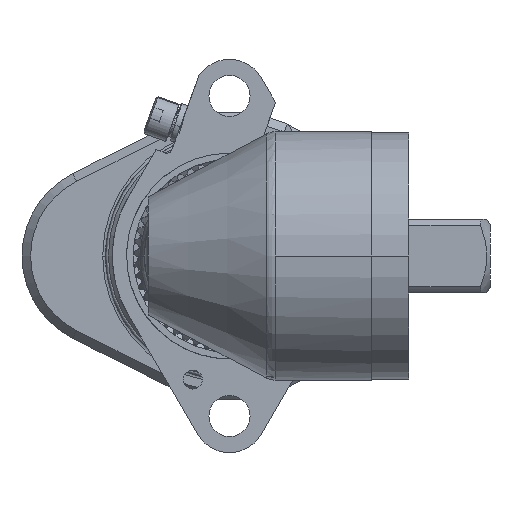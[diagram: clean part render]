
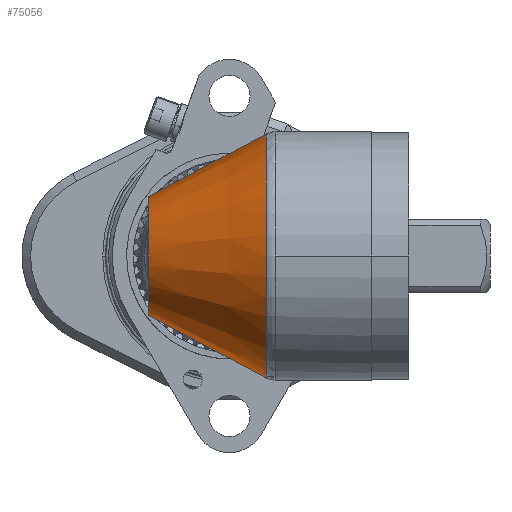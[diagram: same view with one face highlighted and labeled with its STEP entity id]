
A CAD part, left-side view. The second image highlights one B-rep face of the part: STEP entity #75056.
In plain terms, the highlighted conical face has half-angle 28 degrees and reference radius 15.74 mm.
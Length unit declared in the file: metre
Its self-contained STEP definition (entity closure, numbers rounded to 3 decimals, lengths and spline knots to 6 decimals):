
#33392=CARTESIAN_POINT('',(-0.358995,-0.006414,
0.016469));
#33426=CARTESIAN_POINT('',(-0.365325,0.001382,
0.01554));
#33567=CARTESIAN_POINT('',(-0.365325,0.001382,
0.01554));
#33568=CARTESIAN_POINT('',(-0.36563,0.001834,
0.015414));
#33569=CARTESIAN_POINT('',(-0.366176,0.002694,
0.015149));
#33570=CARTESIAN_POINT('',(-0.366803,0.003849,
0.014734));
#33571=CARTESIAN_POINT('',(-0.367255,0.00488,
0.014314));
#33572=CARTESIAN_POINT('',(-0.367554,0.005797,
0.013901));
#33573=CARTESIAN_POINT('',(-0.367732,0.00665,
0.013483));
#33574=CARTESIAN_POINT('',(-0.367808,0.007462,
0.013053));
#33575=CARTESIAN_POINT('',(-0.367793,0.008261,
0.012598));
#33576=CARTESIAN_POINT('',(-0.367691,0.009088,
0.012091));
#33577=CARTESIAN_POINT('',(-0.367496,0.009973,
0.011507));
#33578=CARTESIAN_POINT('',(-0.367202,0.010936,
0.010818));
#33579=CARTESIAN_POINT('',(-0.366814,0.011977,
0.010002));
#33580=CARTESIAN_POINT('',(-0.366364,0.013052,
0.009067));
#33581=CARTESIAN_POINT('',(-0.366055,0.013751,
0.008387));
#33582=CARTESIAN_POINT('',(-0.365901,0.014097,
0.008028));
#33584=CARTESIAN_POINT('',(-0.36285,-0.002224,
0.016424));
#33585=CARTESIAN_POINT('',(-0.362951,-0.002224,
0.016483));
#33586=CARTESIAN_POINT('',(-0.36316,-0.00221,
0.016592));
#33587=CARTESIAN_POINT('',(-0.363487,-0.002145,
0.016729));
#33588=CARTESIAN_POINT('',(-0.363816,-0.002036,
0.016834));
#33589=CARTESIAN_POINT('',(-0.364138,-0.001886,
0.016905));
#33590=CARTESIAN_POINT('',(-0.364446,-0.001698,
0.01694));
#33591=CARTESIAN_POINT('',(-0.364731,-0.001474,
0.01694));
#33592=CARTESIAN_POINT('',(-0.364988,-0.001221,
0.016905));
#33593=CARTESIAN_POINT('',(-0.365209,-0.000942,
0.016839));
#33594=CARTESIAN_POINT('',(-0.36539,-0.000644,
0.016743));
#33595=CARTESIAN_POINT('',(-0.365525,-0.000333,
0.01662));
#33596=CARTESIAN_POINT('',(-0.365612,-0.000017,
0.016473));
#33597=CARTESIAN_POINT('',(-0.365649,0.000298,
0.016308));
#33598=CARTESIAN_POINT('',(-0.365637,0.000603,
0.016127));
#33599=CARTESIAN_POINT('',(-0.365576,0.000891,
0.015936));
#33600=CARTESIAN_POINT('',(-0.365472,0.001155,
0.015738));
#33601=CARTESIAN_POINT('',(-0.365377,0.00131,
0.015606));
#33602=CARTESIAN_POINT('',(-0.365325,0.001382,
0.01554));
#33604=CARTESIAN_POINT('',(-0.362617,-0.002211,
0.016279));
#33605=CARTESIAN_POINT('',(-0.362642,-0.002214,
0.016296));
#33606=CARTESIAN_POINT('',(-0.362693,-0.002219,
0.016329));
#33607=CARTESIAN_POINT('',(-0.362771,-0.002223,
0.016378));
#33608=CARTESIAN_POINT('',(-0.362824,-0.002224,
0.016409));
#33609=CARTESIAN_POINT('',(-0.36285,-0.002224,
0.016424));
#33611=CARTESIAN_POINT('',(-0.358995,-0.006414,
0.016469));
#33612=CARTESIAN_POINT('',(-0.359423,-0.005938,
0.01649));
#33613=CARTESIAN_POINT('',(-0.360263,-0.004993,
0.016502));
#33614=CARTESIAN_POINT('',(-0.361474,-0.003592,
0.016436));
#33615=CARTESIAN_POINT('',(-0.362243,-0.00267,
0.01634));
#33616=CARTESIAN_POINT('',(-0.362617,-0.002211,
0.016279));
#33618=CARTESIAN_POINT('',(-0.365901,0.014097,
-0.008028));
#33619=CARTESIAN_POINT('',(-0.36605,0.013762,
-0.008376));
#33620=CARTESIAN_POINT('',(-0.36635,0.013084,
-0.009037));
#33621=CARTESIAN_POINT('',(-0.366787,0.012043,
-0.009946));
#33622=CARTESIAN_POINT('',(-0.367169,0.011029,
-0.010747));
#33623=CARTESIAN_POINT('',(-0.367464,0.010087,
-0.011428));
#33624=CARTESIAN_POINT('',(-0.367666,0.00922,
-0.012006));
#33625=CARTESIAN_POINT('',(-0.36778,0.008411,
-0.012508));
#33626=CARTESIAN_POINT('',(-0.367811,0.007635,
-0.012957));
#33627=CARTESIAN_POINT('',(-0.367759,0.006855,
-0.013377));
#33628=CARTESIAN_POINT('',(-0.367614,0.006042,
-0.013784));
#33629=CARTESIAN_POINT('',(-0.367362,0.005177,
-0.014184));
#33630=CARTESIAN_POINT('',(-0.366977,0.004218,
-0.014589));
#33631=CARTESIAN_POINT('',(-0.36643,0.00314,
-0.014995));
#33632=CARTESIAN_POINT('',(-0.365711,0.001943,
-0.015388));
#33633=CARTESIAN_POINT('',(-0.364808,0.000617,
-0.015755));
#33634=CARTESIAN_POINT('',(-0.36371,-0.000854,
-0.016078));
#33635=CARTESIAN_POINT('',(-0.3624,-0.002492,
-0.016335));
#33636=CARTESIAN_POINT('',(-0.360859,-0.004315,
-0.016493));
#33637=CARTESIAN_POINT('',(-0.359646,-0.00569,
-0.016501));
#33638=CARTESIAN_POINT('',(-0.358995,-0.006414,
-0.016469));
#33640=CARTESIAN_POINT('',(-0.372333,-0.006414,0.));
#33641=DIRECTION('',(0.,-1.,0.));
#33642=DIRECTION('',(0.629,0.,0.777));
#33643=AXIS2_PLACEMENT_3D('',#33640,#33641,#33642);
#33650=CARTESIAN_POINT('',(-0.372333,-0.006414,0.));
#33651=DIRECTION('',(0.,-1.,0.));
#33652=DIRECTION('',(-1.,0.,0.));
#33653=AXIS2_PLACEMENT_3D('',#33650,#33651,#33652);
#33655=CARTESIAN_POINT('',(-0.372333,-0.006414,0.));
#33656=DIRECTION('',(0.,-1.,0.));
#33657=DIRECTION('',(-1.,0.,0.001));
#33658=AXIS2_PLACEMENT_3D('',#33655,#33656,#33657);
#34188=CARTESIAN_POINT('',(-0.372333,0.014097,0.));
#34189=DIRECTION('',(0.,1.,0.));
#34190=DIRECTION('',(-1.,0.,0.));
#34191=AXIS2_PLACEMENT_3D('',#34188,#34189,#34190);
#34193=CARTESIAN_POINT('',(-0.372333,0.014097,0.));
#34194=DIRECTION('',(0.,1.,0.));
#34195=DIRECTION('',(0.625,0.,-0.78));
#34196=AXIS2_PLACEMENT_3D('',#34193,#34194,#34195);
#35321=VERTEX_POINT('',#33426);
#35323=VERTEX_POINT('',#33582);
#35324=VERTEX_POINT('',#33392);
#35325=VERTEX_POINT('',#33616);
#35328=CARTESIAN_POINT('',(-0.36285,-0.002224,
0.016424));
#35329=VERTEX_POINT('',#35328);
#35334=CARTESIAN_POINT('',(-0.393526,-0.006414,
0.000019));
#35335=VERTEX_POINT('',#35334);
#35336=CARTESIAN_POINT('',(-0.393526,-0.006414,0.));
#35337=VERTEX_POINT('',#35336);
#35338=CARTESIAN_POINT('',(-0.358995,-0.006414,
-0.016469));
#35339=VERTEX_POINT('',#35338);
#35340=VERTEX_POINT('',#33618);
#35341=CARTESIAN_POINT('',(-0.38262,0.014097,0.));
#35342=VERTEX_POINT('',#35341);
#75033=CARTESIAN_POINT('',(-0.372333,0.003841,0.));
#75034=DIRECTION('',(0.,-1.,0.));
#75035=DIRECTION('',(-1.,0.,0.));
#75036=AXIS2_PLACEMENT_3D('',#75033,#75034,#75035);
#75037=CONICAL_SURFACE('',#75036,0.01574,28.);
#75038=ORIENTED_EDGE('',*,*,#74960,.F.);
#75039=ORIENTED_EDGE('',*,*,#75026,.F.);
#75040=ORIENTED_EDGE('',*,*,#74987,.F.);
#75041=ORIENTED_EDGE('',*,*,#74966,.F.);
#75043=ORIENTED_EDGE('',*,*,#75042,.T.);
#75045=ORIENTED_EDGE('',*,*,#75044,.T.);
#75047=ORIENTED_EDGE('',*,*,#75046,.T.);
#75049=ORIENTED_EDGE('',*,*,#75048,.F.);
#75051=ORIENTED_EDGE('',*,*,#75050,.T.);
#75053=ORIENTED_EDGE('',*,*,#75052,.T.);
#75054=EDGE_LOOP('',(#75038,#75039,#75040,#75041,#75043,#75045,#75047,#75049,
#75051,#75053));
#75055=FACE_OUTER_BOUND('',#75054,.F.);
#75056=ADVANCED_FACE('',(#75055),#75037,.T.);
#33583=B_SPLINE_CURVE_WITH_KNOTS('',3,(#33567,#33568,#33569,#33570,#33571,
#33572,#33573,#33574,#33575,#33576,#33577,#33578,#33579,#33580,#33581,#33582),
.UNSPECIFIED.,.F.,.F.,(4,1,1,1,1,1,1,1,1,1,1,1,1,4),(0.,0.076923,
0.153846,0.230769,0.307692,0.384615,
0.461538,0.538462,0.615385,0.692308,
0.769231,0.846154,0.923077,1.),.UNSPECIFIED.);
#33603=B_SPLINE_CURVE_WITH_KNOTS('',3,(#33584,#33585,#33586,#33587,#33588,
#33589,#33590,#33591,#33592,#33593,#33594,#33595,#33596,#33597,#33598,#33599,
#33600,#33601,#33602),.UNSPECIFIED.,.F.,.F.,(4,1,1,1,1,1,1,1,1,1,1,1,1,1,1,1,4),
(0.,0.0625,0.125,0.1875,0.25,0.3125,0.375,0.4375,0.5,0.5625,
0.625,0.6875,0.75,0.8125,0.875,0.9375,1.),.UNSPECIFIED.);
#33610=B_SPLINE_CURVE_WITH_KNOTS('',3,(#33604,#33605,#33606,#33607,#33608,
#33609),.UNSPECIFIED.,.F.,.F.,(4,1,1,4),(0.,0.333333,
0.666667,1.),.UNSPECIFIED.);
#33617=B_SPLINE_CURVE_WITH_KNOTS('',3,(#33611,#33612,#33613,#33614,#33615,
#33616),.UNSPECIFIED.,.F.,.F.,(4,1,1,4),(0.,0.333333,
0.666667,1.),.UNSPECIFIED.);
#33639=B_SPLINE_CURVE_WITH_KNOTS('',3,(#33618,#33619,#33620,#33621,#33622,
#33623,#33624,#33625,#33626,#33627,#33628,#33629,#33630,#33631,#33632,#33633,
#33634,#33635,#33636,#33637,#33638),.UNSPECIFIED.,.F.,.F.,(4,1,1,1,1,1,1,1,1,1,
1,1,1,1,1,1,1,1,4),(0.,0.055556,0.111111,0.166667,
0.222222,0.277778,0.333333,0.388889,
0.444444,0.5,0.555556,0.611111,0.666667,
0.722222,0.777778,0.833333,0.888889,
0.944444,1.),.UNSPECIFIED.);
#33644=CIRCLE('',#33643,0.021193);
#33654=CIRCLE('',#33653,0.021193);
#33659=CIRCLE('',#33658,0.021193);
#34192=CIRCLE('',#34191,0.010287);
#34197=CIRCLE('',#34196,0.010287);
#74960=EDGE_CURVE('',#35321,#35323,#33583,.T.);
#74966=EDGE_CURVE('',#35324,#35325,#33617,.T.);
#74987=EDGE_CURVE('',#35325,#35329,#33610,.T.);
#75026=EDGE_CURVE('',#35329,#35321,#33603,.T.);
#75042=EDGE_CURVE('',#35324,#35335,#33644,.T.);
#75044=EDGE_CURVE('',#35335,#35337,#33659,.T.);
#75046=EDGE_CURVE('',#35337,#35339,#33654,.T.);
#75048=EDGE_CURVE('',#35340,#35339,#33639,.T.);
#75050=EDGE_CURVE('',#35340,#35342,#34197,.T.);
#75052=EDGE_CURVE('',#35342,#35323,#34192,.T.);
